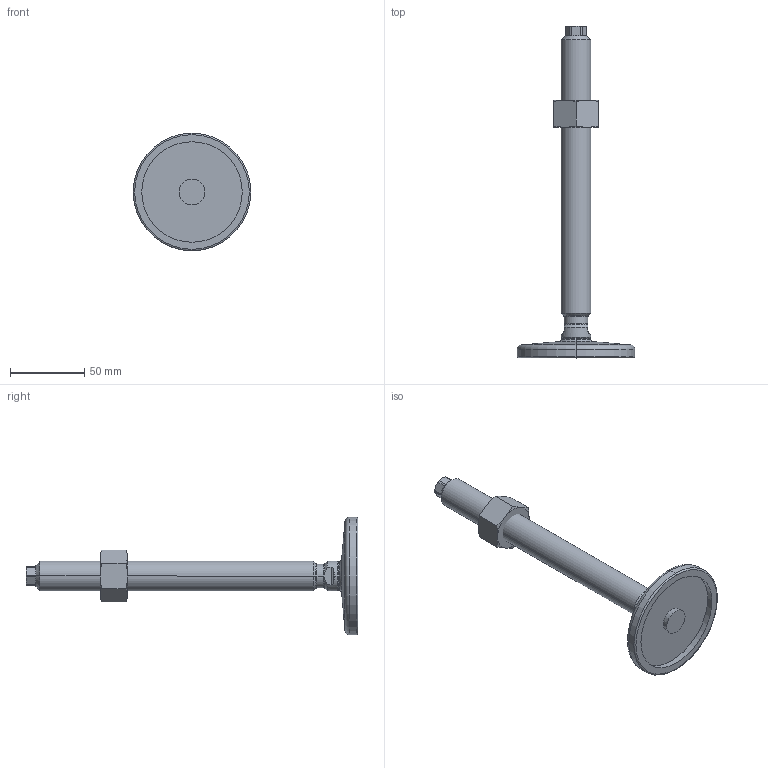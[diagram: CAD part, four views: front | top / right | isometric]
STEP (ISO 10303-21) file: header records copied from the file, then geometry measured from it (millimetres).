
FILE_DESCRIPTION (( 'STEP AP214' ), '1' );
FILE_NAME ('21-80-M20-200-D0-VK.step', '2020-10-02T17:36:08', ( '' ), ( '' ), 'SwSTEP 2.0', 'SolidWorks 2019', '' );
FILE_SCHEMA (( 'AUTOMOTIVE_DESIGN' ));
Length unit declared in the file: millimetre
Products named in the file (4): WB21_Spindel_V^WB21_V_M20-200; WB4032^WB21_V_M20; WB21_Fußteller 21^WB21_V_D0-080-R12-B9 (M20); 21-80-M20-200-D0-VK
Assembly tree (3 placements, depth 2):
  21-80-M20-200-D0-VK
    WB21_Fußteller 21^WB21_V_D0-080-R12-B9 (M20)
    WB21_Spindel_V^WB21_V_M20-200
    WB4032^WB21_V_M20
Bounding box: 79 x 223.02 x 79 mm (x, y, z)
Volume: 105140.5 mm3; surface area: 30724.2 mm2
Topology: 3 solids, 3 shells, 101 faces, 225 edges, 133 vertices
Faces by surface type: cone 33, plane 29, cylinder 25, torus 10, sphere 4
Entity records: 3164 total; most frequent: CARTESIAN_POINT 737, DIRECTION 492, ORIENTED_EDGE 450, EDGE_CURVE 225, AXIS2_PLACEMENT_3D 212, VERTEX_POINT 133, EDGE_LOOP 106, CIRCLE 105
